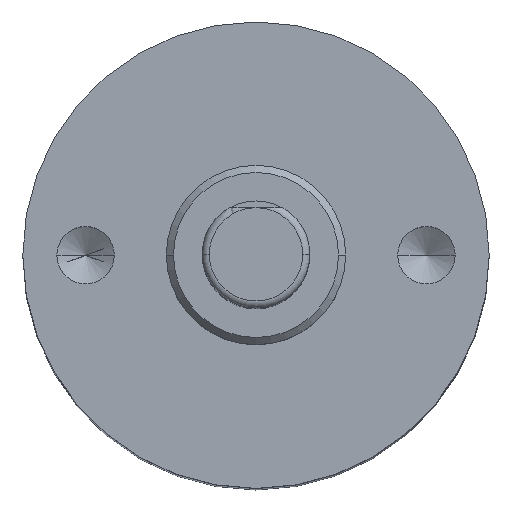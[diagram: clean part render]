
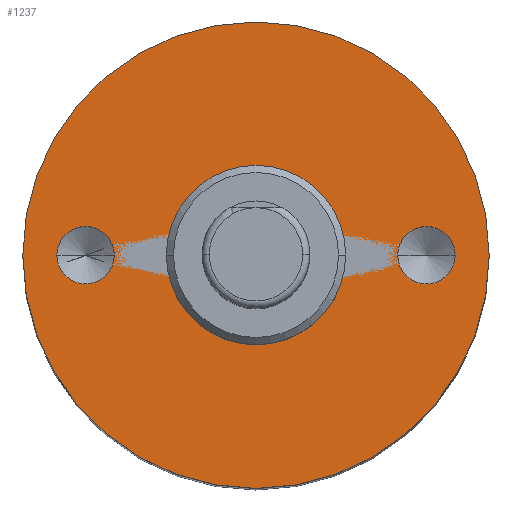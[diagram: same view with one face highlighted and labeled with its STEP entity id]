
A CAD part, top view. The second image highlights one B-rep face of the part: STEP entity #1237.
In plain terms, the highlighted planar face has unit normal (0, 0, 1).
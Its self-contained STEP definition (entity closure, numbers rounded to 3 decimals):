
#1 = EDGE_CURVE ( 'NONE', #453, #1371, #511, .T. ) ;
#21 = CARTESIAN_POINT ( 'NONE',  ( 3.95, 0., -13.9 ) ) ;
#46 = DIRECTION ( 'NONE',  ( 1., 0., 0. ) ) ;
#62 = EDGE_LOOP ( 'NONE', ( #1516, #1407 ) ) ;
#74 = CARTESIAN_POINT ( 'NONE',  ( 0., 0., -13.9 ) ) ;
#83 = CIRCLE ( 'NONE', #1506, 0.8 ) ;
#88 = VERTEX_POINT ( 'NONE', #429 ) ;
#93 = DIRECTION ( 'NONE',  ( 0., 0., 1. ) ) ;
#130 = ORIENTED_EDGE ( 'NONE', *, *, #179, .F. ) ;
#145 = CIRCLE ( 'NONE', #1147, 0.8 ) ;
#169 = EDGE_LOOP ( 'NONE', ( #883, #652 ) ) ;
#179 = EDGE_CURVE ( 'NONE', #305, #338, #1020, .T. ) ;
#203 = VERTEX_POINT ( 'NONE', #237 ) ;
#208 = ORIENTED_EDGE ( 'NONE', *, *, #647, .F. ) ;
#232 = AXIS2_PLACEMENT_3D ( 'NONE', #491, #730, #362 ) ;
#237 = CARTESIAN_POINT ( 'NONE',  ( -3.95, 0., -13.9 ) ) ;
#253 = CARTESIAN_POINT ( 'NONE',  ( -5.55, 0., -13.9 ) ) ;
#272 = PLANE ( 'NONE',  #830 ) ;
#280 = EDGE_CURVE ( 'NONE', #203, #303, #1288, .T. ) ;
#303 = VERTEX_POINT ( 'NONE', #253 ) ;
#305 = VERTEX_POINT ( 'NONE', #370 ) ;
#312 = AXIS2_PLACEMENT_3D ( 'NONE', #74, #403, #887 ) ;
#338 = VERTEX_POINT ( 'NONE', #21 ) ;
#355 = ORIENTED_EDGE ( 'NONE', *, *, #784, .F. ) ;
#361 = DIRECTION ( 'NONE',  ( 0., 0., 1. ) ) ;
#362 = DIRECTION ( 'NONE',  ( 1., 0., 0. ) ) ;
#365 = EDGE_CURVE ( 'NONE', #546, #88, #1343, .T. ) ;
#370 = CARTESIAN_POINT ( 'NONE',  ( 5.55, 0., -13.9 ) ) ;
#403 = DIRECTION ( 'NONE',  ( 0., 0., 1. ) ) ;
#410 = DIRECTION ( 'NONE',  ( 1., 0., 0. ) ) ;
#429 = CARTESIAN_POINT ( 'NONE',  ( 6.5, 0., -13.9 ) ) ;
#438 = AXIS2_PLACEMENT_3D ( 'NONE', #811, #1062, #1398 ) ;
#453 = VERTEX_POINT ( 'NONE', #574 ) ;
#491 = CARTESIAN_POINT ( 'NONE',  ( -4.75, 0., -13.9 ) ) ;
#511 = CIRCLE ( 'NONE', #312, 2.5 ) ;
#512 = DIRECTION ( 'NONE',  ( 0., 0., 1. ) ) ;
#519 = CARTESIAN_POINT ( 'NONE',  ( 0., 0., -13.9 ) ) ;
#546 = VERTEX_POINT ( 'NONE', #633 ) ;
#547 = EDGE_CURVE ( 'NONE', #88, #546, #885, .T. ) ;
#574 = CARTESIAN_POINT ( 'NONE',  ( -2.5, 0., -13.9 ) ) ;
#633 = CARTESIAN_POINT ( 'NONE',  ( -6.5, 0., -13.9 ) ) ;
#645 = DIRECTION ( 'NONE',  ( 0., 0., 1. ) ) ;
#647 = EDGE_CURVE ( 'NONE', #303, #203, #145, .T. ) ;
#652 = ORIENTED_EDGE ( 'NONE', *, *, #1, .F. ) ;
#672 = DIRECTION ( 'NONE',  ( 0., 0., 1. ) ) ;
#690 = AXIS2_PLACEMENT_3D ( 'NONE', #1453, #1095, #46 ) ;
#717 = EDGE_LOOP ( 'NONE', ( #130, #355 ) ) ;
#730 = DIRECTION ( 'NONE',  ( 0., 0., 1. ) ) ;
#739 = FACE_BOUND ( 'NONE', #717, .T. ) ;
#746 = CARTESIAN_POINT ( 'NONE',  ( 0., -2.5, -13.9 ) ) ;
#757 = CIRCLE ( 'NONE', #996, 2.5 ) ;
#784 = EDGE_CURVE ( 'NONE', #338, #305, #83, .T. ) ;
#797 = EDGE_LOOP ( 'NONE', ( #1221, #208 ) ) ;
#811 = CARTESIAN_POINT ( 'NONE',  ( 0., 0., -13.9 ) ) ;
#830 = AXIS2_PLACEMENT_3D ( 'NONE', #746, #512, #980 ) ;
#832 = CARTESIAN_POINT ( 'NONE',  ( 4.75, 0., -13.9 ) ) ;
#840 = DIRECTION ( 'NONE',  ( 1., 0., 0. ) ) ;
#860 = FACE_BOUND ( 'NONE', #169, .T. ) ;
#883 = ORIENTED_EDGE ( 'NONE', *, *, #1167, .F. ) ;
#885 = CIRCLE ( 'NONE', #690, 6.5 ) ;
#887 = DIRECTION ( 'NONE',  ( 1., 0., 0. ) ) ;
#896 = CARTESIAN_POINT ( 'NONE',  ( 2.5, 0., -13.9 ) ) ;
#980 = DIRECTION ( 'NONE',  ( 1., 0., 0. ) ) ;
#996 = AXIS2_PLACEMENT_3D ( 'NONE', #519, #361, #840 ) ;
#1020 = CIRCLE ( 'NONE', #1088, 0.8 ) ;
#1031 = DIRECTION ( 'NONE',  ( 1., 0., 0. ) ) ;
#1062 = DIRECTION ( 'NONE',  ( 0., 0., 1. ) ) ;
#1088 = AXIS2_PLACEMENT_3D ( 'NONE', #832, #672, #1169 ) ;
#1095 = DIRECTION ( 'NONE',  ( 0., 0., 1. ) ) ;
#1147 = AXIS2_PLACEMENT_3D ( 'NONE', #1241, #645, #410 ) ;
#1167 = EDGE_CURVE ( 'NONE', #1371, #453, #757, .T. ) ;
#1169 = DIRECTION ( 'NONE',  ( 1., 0., 0. ) ) ;
#1205 = FACE_OUTER_BOUND ( 'NONE', #62, .T. ) ;
#1221 = ORIENTED_EDGE ( 'NONE', *, *, #280, .F. ) ;
#1237 = ADVANCED_FACE ( 'NONE', ( #1430, #739, #1205, #860 ), #272, .T. ) ;
#1241 = CARTESIAN_POINT ( 'NONE',  ( -4.75, 0., -13.9 ) ) ;
#1288 = CIRCLE ( 'NONE', #232, 0.8 ) ;
#1343 = CIRCLE ( 'NONE', #438, 6.5 ) ;
#1371 = VERTEX_POINT ( 'NONE', #896 ) ;
#1373 = CARTESIAN_POINT ( 'NONE',  ( 4.75, 0., -13.9 ) ) ;
#1398 = DIRECTION ( 'NONE',  ( 1., 0., 0. ) ) ;
#1407 = ORIENTED_EDGE ( 'NONE', *, *, #365, .T. ) ;
#1430 = FACE_BOUND ( 'NONE', #797, .T. ) ;
#1453 = CARTESIAN_POINT ( 'NONE',  ( 0., 0., -13.9 ) ) ;
#1506 = AXIS2_PLACEMENT_3D ( 'NONE', #1373, #93, #1031 ) ;
#1516 = ORIENTED_EDGE ( 'NONE', *, *, #547, .T. ) ;
